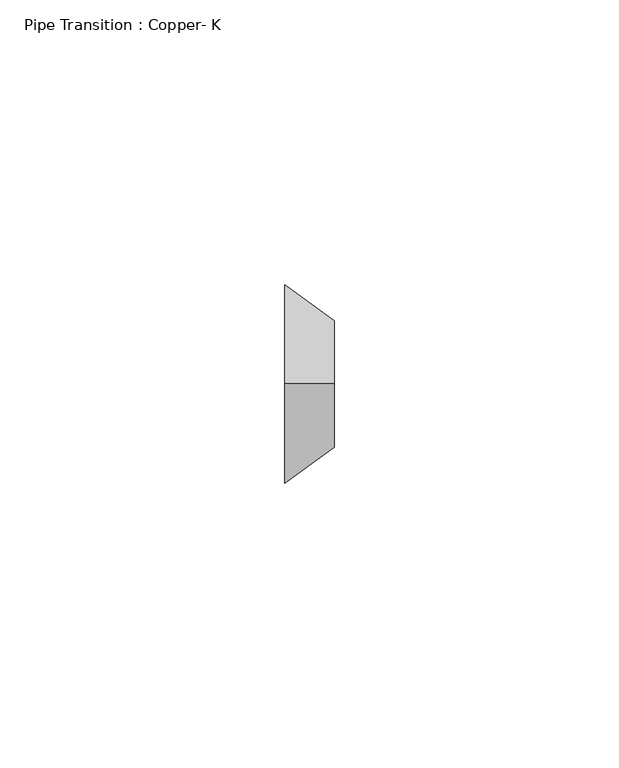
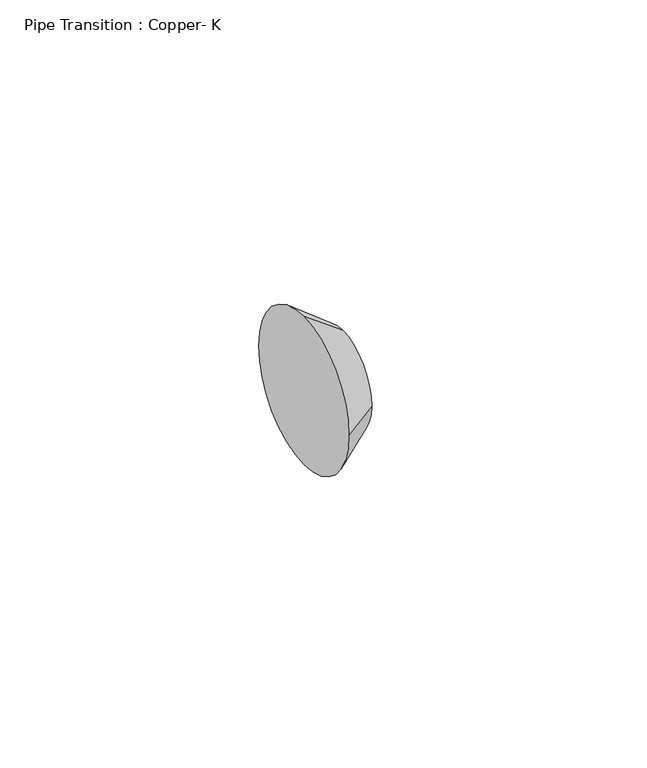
"""IFC4 building model written with IfcOpenShell, lengths in millimetres: pipe fitting geometry, Pipe Transition : Copper- K."""

from ifc_helpers import new_model, si_unit, frame, origin, place, context, project, spatial, polyline, circle_curve, source, transform, mapped, element, save
from ifc_brep_helpers import plane_surface, revolved_surface, advanced_brep


def pipe_transition_copper_k_0a44d8ef(model_context):
    return source(origin(), model_context, "Body", "AdvancedBrep", [
        advanced_brep(
        [(8.73125, 0.0, 11.1125), (8.73125, -11.1125, 0.0), (8.73125, 0.0, -11.1125), (8.73125, 11.1125, 0.0), (0.0, 0.0, 17.4625), (0.0, 17.4625, 0.0), (0.0, 0.0, -17.4625), (0.0, -17.4625, 0.0)],
        [
            (0, 1, circle_curve(frame((8.73125, 0.0, 0.0), z_axis=(1.0, 0.0, 0.0), x_axis=(0.0, 0.0, 1.0)), 11.1125)),
            (1, 2, circle_curve(frame((8.73125, 0.0, 0.0), z_axis=(1.0, 0.0, 0.0), x_axis=(0.0, -1.0, 0.0)), 11.1125)),
            (2, 3, circle_curve(frame((8.73125, 0.0, 0.0), z_axis=(1.0, 0.0, 0.0), x_axis=(0.0, 0.0, -1.0)), 11.1125)),
            (3, 0, circle_curve(frame((8.73125, 0.0, 0.0), z_axis=(1.0, 0.0, 0.0), x_axis=(0.0, 1.0, 0.0)), 11.1125)),
            (4, 5, circle_curve(frame((0.0, 0.0, 0.0), z_axis=(-1.0, 0.0, 0.0), x_axis=(0.0, 1.0, 0.0)), 17.4625)),
            (5, 6, circle_curve(frame((0.0, 0.0, 0.0), z_axis=(-1.0, 0.0, 0.0), x_axis=(0.0, 0.0, -1.0)), 17.4625)),
            (6, 7, circle_curve(frame((0.0, 0.0, 0.0), z_axis=(-1.0, 0.0, 0.0), x_axis=(0.0, -1.0, 0.0)), 17.4625)),
            (7, 4, circle_curve(frame((0.0, 0.0, 0.0), z_axis=(-1.0, 0.0, 0.0), x_axis=(0.0, 0.0, 1.0)), 17.4625)),
            (7, 1),
            (0, 4),
            (6, 2),
            (5, 3),
        ],
        [
            plane_surface(frame((8.73125, 0.0, 0.0), z_axis=(1.0, 0.0, 0.0), x_axis=(0.0, -1.0, 0.0))),
            plane_surface(frame((0.0, 0.0, 0.0), z_axis=(-1.0, 0.0, 0.0), x_axis=(0.0, -1.0, 0.0))),
            revolved_surface(polyline([(8.731250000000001, 0.0, 11.112499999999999), (0.0, 0.0, 17.4625)]), (24.0109375, 0.0, 0.0), (-1.0, 0.0, 0.0)),
            revolved_surface(polyline([(8.731250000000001, -11.112499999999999, 0.0), (0.0, -17.4625, 0.0)]), (24.0109375, 0.0, 0.0), (-1.0, 0.0, 0.0)),
            revolved_surface(polyline([(8.731250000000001, 0.0, -11.112499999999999), (0.0, 0.0, -17.4625)]), (24.0109375, 0.0, 0.0), (-1.0, 0.0, 0.0)),
            revolved_surface(polyline([(8.731250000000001, 11.112499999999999, 0.0), (0.0, 17.4625, 0.0)]), (24.0109375, 0.0, 0.0), (-1.0, 0.0, 0.0)),
        ],
        [
            (0, [[1, 2, 3, 4]]),
            (1, [[5, 6, 7, 8]]),
            (2, [[-8, 9, -1, 10]]),
            (3, [[-7, 11, -2, -9]]),
            (4, [[-6, 12, -3, -11]]),
            (5, [[-5, -10, -4, -12]]),
        ],
    ),
        advanced_brep(
        [(8.73125, 0.0, 11.1125), (8.73125, -11.1125, 0.0), (8.73125, 0.0, -11.1125), (8.73125, 11.1125, 0.0), (0.0, 0.0, 17.4625), (0.0, 17.4625, 0.0), (0.0, 0.0, -17.4625), (0.0, -17.4625, 0.0)],
        [
            (0, 1, circle_curve(frame((8.73125, 0.0, 0.0), z_axis=(1.0, 0.0, 0.0), x_axis=(0.0, 0.0, 1.0)), 11.1125)),
            (1, 2, circle_curve(frame((8.73125, 0.0, 0.0), z_axis=(1.0, 0.0, 0.0), x_axis=(0.0, -1.0, 0.0)), 11.1125)),
            (2, 3, circle_curve(frame((8.73125, 0.0, 0.0), z_axis=(1.0, 0.0, -1.4977782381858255e-12), x_axis=(-1.4977972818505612e-12, 0.0, -1.0)), 11.1125)),
            (3, 0, circle_curve(frame((8.73125, 0.0, 0.0), z_axis=(1.0, 0.0, 0.0), x_axis=(0.0, 1.0, 0.0)), 11.1125)),
            (4, 5, circle_curve(frame((0.0, 0.0, 0.0), z_axis=(-1.0, 0.0, 0.0), x_axis=(0.0, 1.0, 0.0)), 17.4625)),
            (5, 6, circle_curve(frame((0.0, 0.0, 0.0), z_axis=(-1.0, 0.0, 1.4977782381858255e-12), x_axis=(-1.4977972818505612e-12, 0.0, -1.0)), 17.4625)),
            (6, 7, circle_curve(frame((0.0, 0.0, 0.0), z_axis=(-1.0, 0.0, 0.0), x_axis=(0.0, -1.0, 0.0)), 17.4625)),
            (7, 4, circle_curve(frame((0.0, 0.0, 0.0), z_axis=(-1.0, 0.0, 0.0), x_axis=(0.0, 0.0, 1.0)), 17.4625)),
            (7, 1),
            (0, 4),
            (6, 2),
            (5, 3),
        ],
        [
            plane_surface(frame((8.73125, 0.0, 0.0), z_axis=(1.0, 0.0, 0.0), x_axis=(0.0, -1.0, 0.0))),
            plane_surface(frame((0.0, 0.0, 0.0), z_axis=(-1.0, 0.0, 0.0), x_axis=(0.0, -1.0, 0.0))),
            revolved_surface(polyline([(8.731250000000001, 0.0, 11.112499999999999), (0.0, 0.0, 17.4625)]), (24.0109375, 0.0, 0.0), (-1.0, 0.0, 0.0)),
            revolved_surface(polyline([(8.731250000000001, -11.112499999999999, 0.0), (0.0, -17.4625, 0.0)]), (24.0109375, 0.0, 0.0), (-1.0, 0.0, 0.0)),
            revolved_surface(polyline([(8.731250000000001, 0.0, -11.112499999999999), (-2.6155078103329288e-11, 0.0, -17.46250000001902)]), (24.0109375, 0.0, 0.0), (-1.0, 0.0, 1.4977782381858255e-12)),
            revolved_surface(polyline([(8.731250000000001, 11.112499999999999, 0.0), (0.0, 17.4625, 0.0)]), (24.0109375, 0.0, 0.0), (-1.0, 0.0, 0.0)),
        ],
        [
            (0, [[1, 2, 3, 4]]),
            (1, [[5, 6, 7, 8]]),
            (2, [[-8, 9, -1, 10]]),
            (3, [[-7, 11, -2, -9]]),
            (4, [[-6, 12, -3, -11]]),
            (5, [[-5, -10, -4, -12]]),
        ],
    ),
    ])


if __name__ == "__main__":
    model = new_model("IFC4")
    model_context = context("Model", 3, world=origin())
    ifc_project = project(units=[si_unit("LENGTHUNIT", "METRE", prefix="MILLI")], contexts=[model_context])
    site = spatial("IfcSite", under=ifc_project)
    building = spatial("IfcBuilding", under=site)
    placement = place(None, origin())
    pipe_transition_copper_k_shape = pipe_transition_copper_k_0a44d8ef(model_context)
    element("IfcPipeFitting", 1, ObjectType="Pipe Transition : Copper- K", at=placement, inside=building, context=model_context, shape_type="MappedRepresentation", body=[
        mapped(pipe_transition_copper_k_shape, transform((0.0, 0.0, 0.0), x_axis=(1.0, 0.0, 0.0), y_axis=(0.0, 1.0, 0.0), z_axis=(0.0, 0.0, 1.0))),
    ])
    save(model, "model.ifc")
